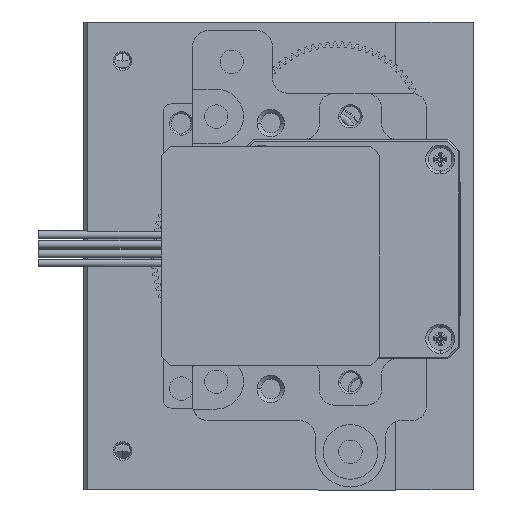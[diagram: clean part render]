
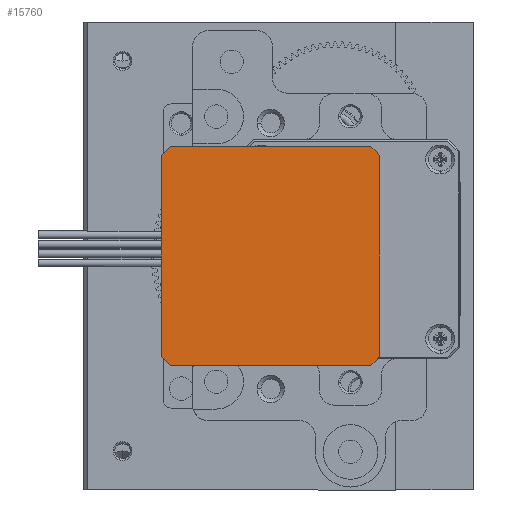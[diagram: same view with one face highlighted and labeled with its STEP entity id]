
A CAD part, left-side view. The second image highlights one B-rep face of the part: STEP entity #15760.
In plain terms, the highlighted planar face has unit normal (-1, 0, 0) as drawn and (0, 0, -1) by its records, which use the part's own axes.
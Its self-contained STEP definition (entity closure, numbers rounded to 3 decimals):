
#2183 = FACE_OUTER_BOUND ( 'NONE', #56721, .T. ) ;
#15760 = ADVANCED_FACE ( 'NONE', ( #2183 ), #40969, .F. ) ;
#40969 = PLANE ( 'NONE',  #46916 ) ;
#40999 = CARTESIAN_POINT ( 'NONE',  ( 0., 0., 0. ) ) ;
#41000 = DIRECTION ( 'NONE',  ( 1., 0., 0. ) ) ;
#41003 = DIRECTION ( 'NONE',  ( 0., 0., 1. ) ) ;
#43159 = EDGE_CURVE ( 'NONE', #73583, #73555, #64670, .T. ) ;
#43168 = EDGE_CURVE ( 'NONE', #73519, #73510, #64656, .T. ) ;
#43172 = EDGE_CURVE ( 'NONE', #73591, #73590, #64674, .T. ) ;
#43191 = EDGE_CURVE ( 'NONE', #73555, #73519, #64621, .T. ) ;
#43230 = EDGE_CURVE ( 'NONE', #73563, #73553, #64623, .T. ) ;
#43234 = EDGE_CURVE ( 'NONE', #73510, #73591, #64663, .T. ) ;
#43258 = EDGE_CURVE ( 'NONE', #73553, #73583, #64727, .T. ) ;
#43309 = EDGE_CURVE ( 'NONE', #73590, #73563, #64687, .T. ) ;
#46916 = AXIS2_PLACEMENT_3D ( 'NONE', #40999, #41003, #41000 ) ;
#53414 = AXIS2_PLACEMENT_3D ( 'NONE', #70379, #70391, #70382 ) ;
#53424 = AXIS2_PLACEMENT_3D ( 'NONE', #70569, #70555, #70565 ) ;
#53446 = AXIS2_PLACEMENT_3D ( 'NONE', #70472, #70476, #70468 ) ;
#53454 = AXIS2_PLACEMENT_3D ( 'NONE', #70474, #70465, #70475 ) ;
#56721 = EDGE_LOOP ( 'NONE', ( #72603, #72615, #72618, #72589, #72608, #72692, #72672, #72683 ) ) ;
#64621 = CIRCLE ( 'NONE', #53414, 19. ) ;
#64623 = LINE ( 'NONE', #70426, #64624 ) ;
#64624 = VECTOR ( 'NONE', #70429, 1000. ) ;
#64628 = VECTOR ( 'NONE', #70325, 1000. ) ;
#64644 = VECTOR ( 'NONE', #70328, 1000. ) ;
#64656 = LINE ( 'NONE', #70344, #64644 ) ;
#64662 = VECTOR ( 'NONE', #70300, 1000. ) ;
#64663 = CIRCLE ( 'NONE', #53446, 19. ) ;
#64670 = LINE ( 'NONE', #70282, #64662 ) ;
#64674 = LINE ( 'NONE', #70319, #64628 ) ;
#64687 = CIRCLE ( 'NONE', #53424, 19. ) ;
#64727 = CIRCLE ( 'NONE', #53454, 19. ) ;
#70282 = CARTESIAN_POINT ( 'NONE',  ( 14., 14., 0. ) ) ;
#70300 = DIRECTION ( 'NONE',  ( 0., 1., 0. ) ) ;
#70319 = CARTESIAN_POINT ( 'NONE',  ( -14., 14., 0. ) ) ;
#70325 = DIRECTION ( 'NONE',  ( 0., -1., 0. ) ) ;
#70328 = DIRECTION ( 'NONE',  ( -1., 0., 0. ) ) ;
#70344 = CARTESIAN_POINT ( 'NONE',  ( -14., 14., 0. ) ) ;
#70379 = CARTESIAN_POINT ( 'NONE',  ( 0., 0., 0. ) ) ;
#70382 = DIRECTION ( 'NONE',  ( 1., 0., 0. ) ) ;
#70391 = DIRECTION ( 'NONE',  ( 0., 0., 1. ) ) ;
#70426 = CARTESIAN_POINT ( 'NONE',  ( -14., -14., 0. ) ) ;
#70429 = DIRECTION ( 'NONE',  ( 1., 0., 0. ) ) ;
#70465 = DIRECTION ( 'NONE',  ( 0., 0., 1. ) ) ;
#70468 = DIRECTION ( 'NONE',  ( 1., 0., 0. ) ) ;
#70472 = CARTESIAN_POINT ( 'NONE',  ( 0., 0., 0. ) ) ;
#70474 = CARTESIAN_POINT ( 'NONE',  ( 0., 0., 0. ) ) ;
#70475 = DIRECTION ( 'NONE',  ( 1., 0., 0. ) ) ;
#70476 = DIRECTION ( 'NONE',  ( 0., 0., 1. ) ) ;
#70555 = DIRECTION ( 'NONE',  ( 0., 0., 1. ) ) ;
#70565 = DIRECTION ( 'NONE',  ( 1., 0., 0. ) ) ;
#70569 = CARTESIAN_POINT ( 'NONE',  ( 0., 0., 0. ) ) ;
#72589 = ORIENTED_EDGE ( 'NONE', *, *, #43230, .F. ) ;
#72603 = ORIENTED_EDGE ( 'NONE', *, *, #43191, .F. ) ;
#72608 = ORIENTED_EDGE ( 'NONE', *, *, #43309, .F. ) ;
#72615 = ORIENTED_EDGE ( 'NONE', *, *, #43159, .F. ) ;
#72618 = ORIENTED_EDGE ( 'NONE', *, *, #43258, .F. ) ;
#72672 = ORIENTED_EDGE ( 'NONE', *, *, #43234, .F. ) ;
#72683 = ORIENTED_EDGE ( 'NONE', *, *, #43168, .F. ) ;
#72692 = ORIENTED_EDGE ( 'NONE', *, *, #43172, .F. ) ;
#73510 = VERTEX_POINT ( 'NONE', #74743 ) ;
#73519 = VERTEX_POINT ( 'NONE', #74793 ) ;
#73553 = VERTEX_POINT ( 'NONE', #74766 ) ;
#73555 = VERTEX_POINT ( 'NONE', #74734 ) ;
#73563 = VERTEX_POINT ( 'NONE', #74767 ) ;
#73583 = VERTEX_POINT ( 'NONE', #74731 ) ;
#73590 = VERTEX_POINT ( 'NONE', #74738 ) ;
#73591 = VERTEX_POINT ( 'NONE', #74854 ) ;
#74731 = CARTESIAN_POINT ( 'NONE',  ( 14., -12.845, 0. ) ) ;
#74734 = CARTESIAN_POINT ( 'NONE',  ( 14., 12.845, 0. ) ) ;
#74738 = CARTESIAN_POINT ( 'NONE',  ( -14., -12.845, 0. ) ) ;
#74743 = CARTESIAN_POINT ( 'NONE',  ( -12.845, 14., 0. ) ) ;
#74766 = CARTESIAN_POINT ( 'NONE',  ( 12.845, -14., 0. ) ) ;
#74767 = CARTESIAN_POINT ( 'NONE',  ( -12.845, -14., 0. ) ) ;
#74793 = CARTESIAN_POINT ( 'NONE',  ( 12.845, 14., 0. ) ) ;
#74854 = CARTESIAN_POINT ( 'NONE',  ( -14., 12.845, 0. ) ) ;
